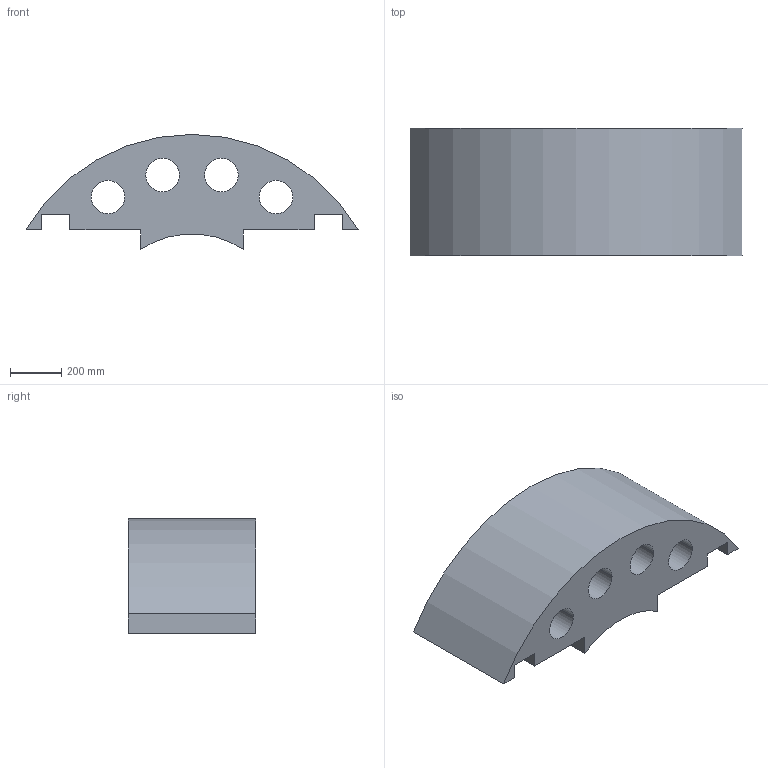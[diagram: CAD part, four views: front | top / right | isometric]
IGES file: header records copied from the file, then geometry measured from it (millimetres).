
Start section:  PTC IGES file: bpb_middle_plate_af0.igs
Global section: file name: bpb_middle_plate_af0.igs; native system: Pro/ENGINEER by Parametric Technology Corporation; preprocessor: 1999260; author: oshatz; organization: Unknown; date: 000922.101837; units: millimetre
Bounding box: 1290.94 x 495 x 447.7 mm (x, y, z)
Surface area: 3102061.9 mm2 (no closed solid volume)
Topology: 0 solids, 0 shells, 38 faces, 208 edges, 208 vertices
Faces by surface type: bspline 24, revolution 14
